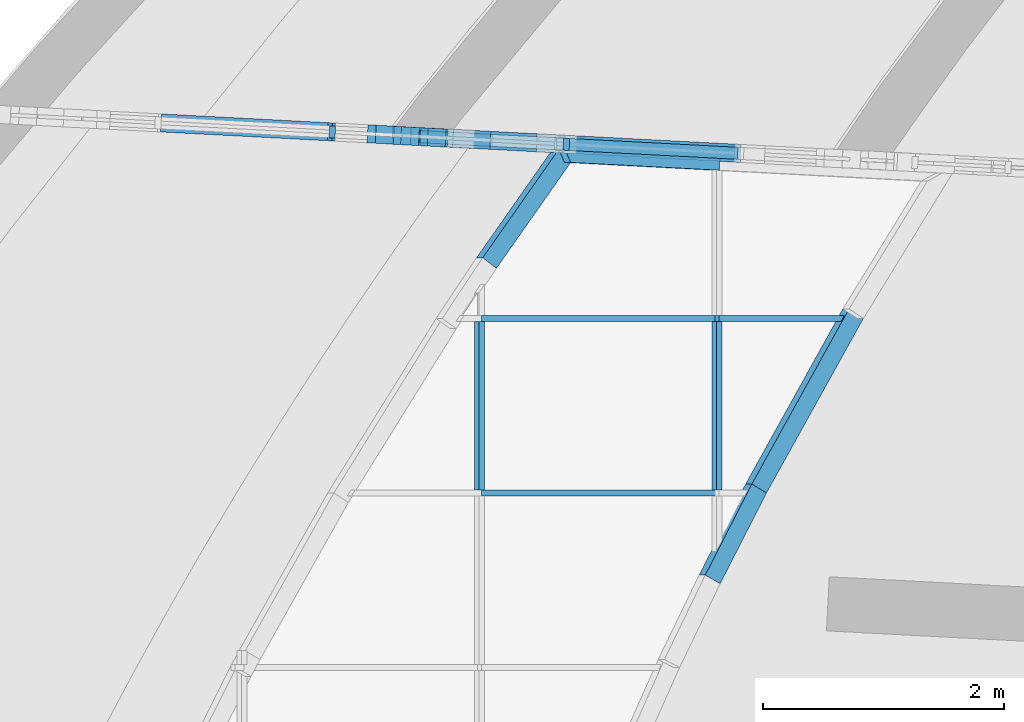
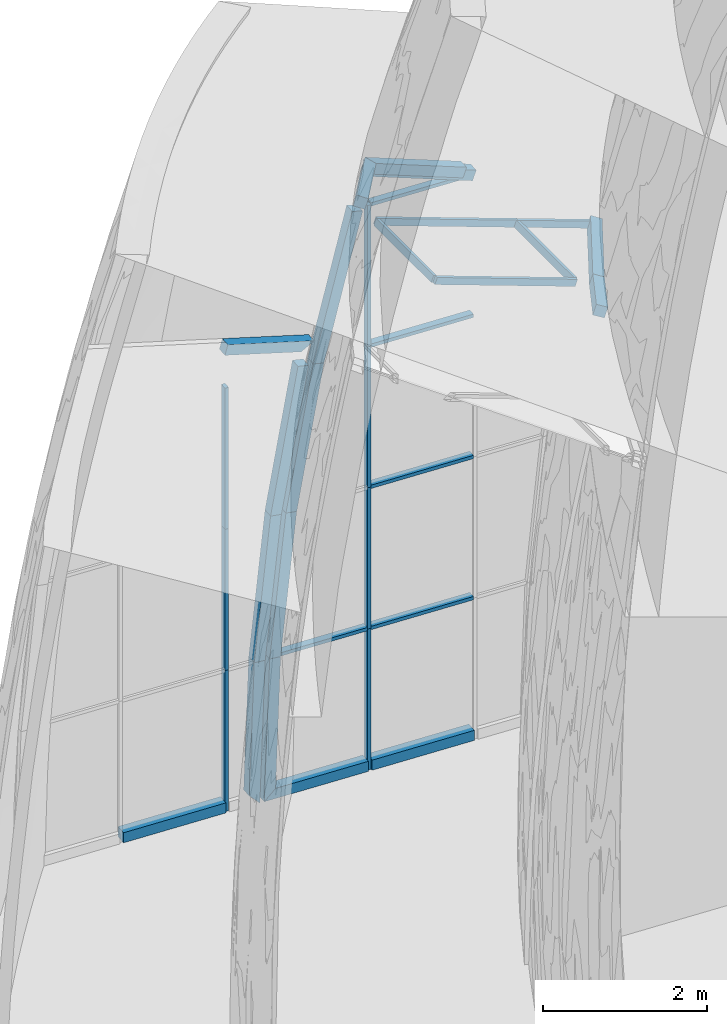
# One storey, part 17 of 82: 33 members, 2 elements without a shape of their own.
"""IFC2X3 building model written with IfcOpenShell, lengths in millimetres."""

from ifc_helpers import new_model, entity, si_unit, converted_unit, derived_unit, direction, frame, frame_2d, origin, origin_2d_with_axis, place, context, subcontext, project, spatial, polyline, rectangle, extrude, clip, halfspace, bounded_halfspace, source, transform, mapped, material, type_object, type_shapes, element, aggregate, save


model = new_model("IFC2X3")

# Units and contexts
model_context = context("Model", 3, precision=0.01, world=origin(), true_north=direction((6.12303176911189e-17, 1.0)))
body_context = subcontext(model_context, "Body", "Model", "MODEL_VIEW")
ifc_project = project(units=[si_unit("LENGTHUNIT", "METRE", prefix="MILLI"), si_unit("AREAUNIT", "SQUARE_METRE"), si_unit("VOLUMEUNIT", "CUBIC_METRE"), converted_unit("PLANEANGLEUNIT", "DEGREE", entity("IfcRatioMeasure", 0.0174532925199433), si_unit("PLANEANGLEUNIT", "RADIAN"), dimensions=[0, 0, 0, 0, 0, 0, 0]), si_unit("MASSUNIT", "GRAM", prefix="KILO"), derived_unit("MASSDENSITYUNIT", [(si_unit("MASSUNIT", "GRAM", prefix="KILO"), 1), (si_unit("LENGTHUNIT", "METRE"), -3)]), si_unit("TIMEUNIT", "SECOND"), si_unit("FREQUENCYUNIT", "HERTZ"), si_unit("THERMODYNAMICTEMPERATUREUNIT", "DEGREE_CELSIUS"), derived_unit("THERMALTRANSMITTANCEUNIT", [(si_unit("MASSUNIT", "GRAM", prefix="KILO"), 1), (si_unit("THERMODYNAMICTEMPERATUREUNIT", "KELVIN"), -1), (si_unit("TIMEUNIT", "SECOND"), -3)]), derived_unit("VOLUMETRICFLOWRATEUNIT", [(si_unit("LENGTHUNIT", "METRE"), 3), (si_unit("TIMEUNIT", "SECOND"), -1)]), si_unit("ELECTRICCURRENTUNIT", "AMPERE"), si_unit("ELECTRICVOLTAGEUNIT", "VOLT"), si_unit("POWERUNIT", "WATT"), si_unit("FORCEUNIT", "NEWTON", prefix="KILO"), si_unit("ILLUMINANCEUNIT", "LUX"), si_unit("LUMINOUSFLUXUNIT", "LUMEN"), si_unit("LUMINOUSINTENSITYUNIT", "CANDELA"), derived_unit("USERDEFINED", [(si_unit("MASSUNIT", "GRAM", prefix="KILO"), -1), (si_unit("LENGTHUNIT", "METRE"), -2), (si_unit("TIMEUNIT", "SECOND"), 3), (si_unit("LUMINOUSFLUXUNIT", "LUMEN"), 1)]), derived_unit("LINEARVELOCITYUNIT", [(si_unit("LENGTHUNIT", "METRE"), 1), (si_unit("TIMEUNIT", "SECOND"), -1)]), si_unit("PRESSUREUNIT", "PASCAL"), derived_unit("USERDEFINED", [(si_unit("LENGTHUNIT", "METRE"), -2), (si_unit("MASSUNIT", "GRAM", prefix="KILO"), 1), (si_unit("TIMEUNIT", "SECOND"), -2)])], contexts=[model_context])

# Site, building, storey
site_placement = place(None, origin())
site = spatial("IfcSite", under=ifc_project, at=site_placement, Name="表面", CompositionType="ELEMENT")
building_placement = place(site_placement, origin())
building = spatial("IfcBuilding", under=site, at=building_placement, CompositionType="ELEMENT")
storey_placement = place(building_placement, origin())
storey = spatial("IfcBuildingStorey", under=building, at=storey_placement, Name="1F", CompositionType="ELEMENT", Elevation=0.0)

# Curtain wall, members
curtain_wall_type = type_object("IfcCurtainWallType", Name="幕墙系统:1450 x 2100mm", PredefinedType="NOTDEFINED")
curtain_wall_1_placement = place(storey_placement, origin())
curtain_wall_1 = element("IfcCurtainWall", 1, at=curtain_wall_1_placement, inside=storey, type_object=curtain_wall_type, Name="幕墙系统:1450 x 2100mm", ObjectType="幕墙系统:1450 x 2100mm")
ifc_material_1 = material(Name="金属 - 铝")
member_type_1 = type_object("IfcMemberType", Name="50 x 100mm", PredefinedType="MEMBER")
shared_shape_1 = source(origin(), body_context, "Body", "SweptSolid", [
    extrude(rectangle(XDim=100.0, YDim=50.0, at=origin_2d_with_axis()), frame((0.0, 0.0, -1400.0), z_axis=(0.0, 0.0, 1.0), x_axis=(0.0, -1.0, 0.0)), (0.0, 0.0, 1.0), 1400.0),
])
type_shapes(member_type_1, [shared_shape_1])
placement_1 = place(building_placement, frame((0.0, 0.0, 6000.0)))
member_1_placement = place(placement_1, frame((-30836.5619092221, 1428.1232801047, 2543.85893198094), z_axis=(0.0, 1.0, 0.0), x_axis=(-0.93969262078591, 0.0, 0.342020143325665)))
member_1 = element("IfcMember", 2, at=member_1_placement, type_object=member_type_1, material=ifc_material_1, Name="矩形竖梃:50 x 100mm", ObjectType="50 x 100mm", context=body_context, shape_type="MappedRepresentation", body=[
    mapped(shared_shape_1, transform((0.0, 0.0, 0.0), scale=1.0)),
])
placement_2 = place(building_placement, frame((0.0, 0.0, 9000.0)))
member_2_placement = place(placement_2, frame((-32809.9164128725, 1428.1232801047, 262.101232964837), z_axis=(0.0, 1.0, 0.0), x_axis=(-0.93969262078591, 0.0, 0.342020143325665)))
member_2 = element("IfcMember", 3, at=member_2_placement, type_object=member_type_1, material=ifc_material_1, Name="矩形竖梃:50 x 100mm", ObjectType="50 x 100mm", context=body_context, shape_type="MappedRepresentation", body=[
    mapped(shared_shape_1, transform((0.0, 0.0, 0.0), scale=1.0)),
])
member_3_placement = place(storey_placement, frame((-32063.5919460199, 2898.75342961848, 2100.0), z_axis=(-0.998629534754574, 0.0523359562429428, 0.0), x_axis=(0.0, 0.0, 1.0)))
member_3 = element("IfcMember", 4, at=member_3_placement, type_object=member_type_1, material=ifc_material_1, Name="矩形竖梃:50 x 100mm", ObjectType="50 x 100mm", context=body_context, shape_type="MappedRepresentation", body=[
    mapped(shared_shape_1, transform((0.0, 0.0, 0.0), scale=1.0)),
])
placement_3 = place(building_placement, frame((0.0, 0.0, 3000.0)))
member_4_placement = place(placement_3, frame((-32063.5919460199, 2898.75342961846, 1200.0), z_axis=(-0.998629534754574, 0.0523359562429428, 0.0), x_axis=(0.0, 0.0, 1.0)))
member_4 = element("IfcMember", 5, at=member_4_placement, type_object=member_type_1, material=ifc_material_1, Name="矩形竖梃:50 x 100mm", ObjectType="50 x 100mm", context=body_context, shape_type="MappedRepresentation", body=[
    mapped(shared_shape_1, transform((0.0, 0.0, 0.0), scale=1.0)),
])
member_5_placement = place(placement_1, frame((-32063.5919460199, 2898.75342961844, 300.0), z_axis=(-0.998629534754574, 0.0523359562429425, 0.0), x_axis=(0.0, 0.0, 1.0)))
member_5 = element("IfcMember", 6, at=member_5_placement, type_object=member_type_1, material=ifc_material_1, Name="矩形竖梃:50 x 100mm", ObjectType="50 x 100mm", context=body_context, shape_type="MappedRepresentation", body=[
    mapped(shared_shape_1, transform((0.0, 0.0, 0.0), scale=1.0)),
])
member_6_placement = place(placement_1, frame((-32063.5919460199, 2898.75342961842, 2400.0), z_axis=(-0.998629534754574, 0.0523359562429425, 0.0), x_axis=(0.0, 0.0, 1.0)))
member_6 = element("IfcMember", 7, at=member_6_placement, type_object=member_type_1, material=ifc_material_1, Name="矩形竖梃:50 x 100mm", ObjectType="50 x 100mm", context=body_context, shape_type="MappedRepresentation", body=[
    mapped(shared_shape_1, transform((0.0, 0.0, 0.0), scale=1.0)),
])

# Curtain wall, member
curtain_wall_2_placement = place(storey_placement, origin())
curtain_wall_2 = element("IfcCurtainWall", 8, at=curtain_wall_2_placement, inside=storey, type_object=curtain_wall_type, Name="幕墙系统:1450 x 2100mm", ObjectType="幕墙系统:1450 x 2100mm")
member_type_2 = type_object("IfcMemberType", Name="50 x 100mm", PredefinedType="MEMBER")
shared_shape_2 = source(origin(), body_context, "Body", "SweptSolid", [
    extrude(rectangle(XDim=100.0, YDim=50.0, at=origin_2d_with_axis()), frame((0.0, 0.0, -2100.0), z_axis=(0.0, 0.0, 1.0), x_axis=(0.0, -1.0, 0.0)), (0.0, 0.0, 1.0), 2100.0),
])
type_shapes(member_type_2, [shared_shape_2])
member_7_placement = place(storey_placement, frame((-34033.894260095, 3003.05776538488, 2100.0), z_axis=(0.0, 0.0, 1.0), x_axis=(0.998629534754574, -0.0523359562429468, 0.0)))
member_7 = element("IfcMember", 9, at=member_7_placement, type_object=member_type_2, material=ifc_material_1, Name="矩形竖梃:50 x 100mm", ObjectType="50 x 100mm", context=body_context, shape_type="MappedRepresentation", body=[
    mapped(shared_shape_2, transform((0.0, 0.0, 0.0), scale=1.0)),
])

# Member
member_8_placement = place(storey_placement, frame((-32088.5576843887, 2900.06182852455, 2100.0), z_axis=(0.0, 0.0, 1.0), x_axis=(0.998629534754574, -0.0523359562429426, 0.0)))
member_8 = element("IfcMember", 10, at=member_8_placement, type_object=member_type_2, material=ifc_material_1, Name="矩形竖梃:50 x 100mm", ObjectType="50 x 100mm", context=body_context, shape_type="MappedRepresentation", body=[
    mapped(shared_shape_2, transform((0.0, 0.0, 0.0), scale=1.0)),
])

member_type_3 = type_object("IfcMemberType", Name="50 x 100mm", PredefinedType="MEMBER")
shared_shape_3 = source(origin(), body_context, "Body", "SweptSolid", [
    extrude(rectangle(XDim=100.0, YDim=50.0, at=origin_2d_with_axis()), frame((0.0, 0.0, -2100.0), z_axis=(0.0, 0.0, 1.0), x_axis=(0.0, -1.0, 0.0)), (0.0, 0.0, 1.0), 2100.0),
])
type_shapes(member_type_3, [shared_shape_3])
member_9_placement = place(storey_placement, frame((-34033.894260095, 3003.05776538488, 4200.0), z_axis=(0.0, 0.0, 1.0), x_axis=(0.998629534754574, -0.0523359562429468, 0.0)))
member_9 = element("IfcMember", 11, at=member_9_placement, type_object=member_type_3, material=ifc_material_1, Name="矩形竖梃:50 x 100mm", ObjectType="50 x 100mm", context=body_context, shape_type="MappedRepresentation", body=[
    mapped(shared_shape_3, transform((0.0, 0.0, 0.0), scale=1.0)),
])

member_10_placement = place(placement_3, frame((-34033.894260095, 3003.05776538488, 3300.0), z_axis=(0.0, 0.0, 1.0), x_axis=(0.998629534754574, -0.0523359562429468, 0.0)))
member_10 = element("IfcMember", 12, at=member_10_placement, type_object=member_type_3, material=ifc_material_1, Name="矩形竖梃:50 x 100mm", ObjectType="50 x 100mm", context=body_context, shape_type="MappedRepresentation", body=[
    mapped(shared_shape_3, transform((0.0, 0.0, 0.0), scale=1.0)),
])

member_11_placement = place(placement_1, frame((-32809.9164128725, 1453.1232801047, 3262.10123296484), z_axis=(-0.939692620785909, 0.0, 0.342020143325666), x_axis=(0.0, -1.0, 0.0)))
member_11 = element("IfcMember", 13, at=member_11_placement, type_object=member_type_3, material=ifc_material_1, Name="矩形竖梃:50 x 100mm", ObjectType="50 x 100mm", context=body_context, shape_type="MappedRepresentation", body=[
    mapped(shared_shape_3, transform((0.0, 0.0, 0.0), scale=1.0)),
])

member_12_placement = place(placement_1, frame((-32809.9164128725, 3.12328010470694, 3262.10123296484), z_axis=(-0.939692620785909, 0.0, 0.342020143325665), x_axis=(0.0, -1.0, 0.0)))
member_12 = element("IfcMember", 14, at=member_12_placement, type_object=member_type_3, material=ifc_material_1, Name="矩形竖梃:50 x 100mm", ObjectType="50 x 100mm", context=body_context, shape_type="MappedRepresentation", body=[
    mapped(shared_shape_3, transform((0.0, 0.0, 0.0), scale=1.0)),
])

member_13_placement = place(storey_placement, frame((-32088.5576843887, 2900.06182852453, 4200.0), z_axis=(0.0, 0.0, 1.0), x_axis=(0.998629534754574, -0.0523359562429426, 0.0)))
member_13 = element("IfcMember", 15, at=member_13_placement, type_object=member_type_3, material=ifc_material_1, Name="矩形竖梃:50 x 100mm", ObjectType="50 x 100mm", context=body_context, shape_type="MappedRepresentation", body=[
    mapped(shared_shape_3, transform((0.0, 0.0, 0.0), scale=1.0)),
])

member_14_placement = place(placement_3, frame((-32088.5576843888, 2900.06182852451, 3300.0), z_axis=(0.0, 0.0, 1.0), x_axis=(0.998629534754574, -0.0523359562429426, 0.0)))
member_14 = element("IfcMember", 16, at=member_14_placement, type_object=member_type_3, material=ifc_material_1, Name="矩形竖梃:50 x 100mm", ObjectType="50 x 100mm", context=body_context, shape_type="MappedRepresentation", body=[
    mapped(shared_shape_3, transform((0.0, 0.0, 0.0), scale=1.0)),
])

member_15_placement = place(placement_1, frame((-32088.5576843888, 2900.0618285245, 2400.0), z_axis=(0.0, 0.0, 1.0), x_axis=(0.998629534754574, -0.0523359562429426, 0.0)))
member_15 = element("IfcMember", 17, at=member_15_placement, type_object=member_type_3, material=ifc_material_1, Name="矩形竖梃:50 x 100mm", ObjectType="50 x 100mm", context=body_context, shape_type="MappedRepresentation", body=[
    mapped(shared_shape_3, transform((0.0, 0.0, 0.0), scale=1.0)),
])

ifc_material_2 = material(Name="木质 - 木材")
member_type_4 = type_object("IfcMemberType", Name="200 x 150mm", PredefinedType="MEMBER")
shared_shape_4 = source(origin(), body_context, "Body", "Clipping", [
    clip(clip(extrude(rectangle(XDim=150.0, YDim=150.0, at=origin_2d_with_axis()), frame((-75.0, 0.0, -2101.28937388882), z_axis=(0.0, 0.0, 1.0), x_axis=(0.0, -1.0, 0.0)), (0.0, 0.0, 1.0), 2106.55957942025), halfspace(frame((0.0, -304.8, -2101.28937388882), z_axis=(-0.694612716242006, 0.0, -0.719383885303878), x_axis=(-0.719383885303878, 0.0, 0.694612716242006)), False)), halfspace(frame((0.0, 304.8, 0.0), z_axis=(0.0351130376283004, 0.0, 0.999383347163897), x_axis=(0.999383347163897, 0.0, -0.0351130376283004)), False)),
])
type_shapes(member_type_4, [shared_shape_4])
member_16_placement = place(storey_placement, frame((-33523.0706012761, 2976.28663182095, 2100.0), z_axis=(0.0349783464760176, -0.00183313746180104, 0.999386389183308), x_axis=(0.99801676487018, -0.0523038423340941, -0.0350263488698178)))
member_16 = element("IfcMember", 18, at=member_16_placement, type_object=member_type_4, material=ifc_material_2, Name="矩形竖梃:200 x 150mm", ObjectType="200 x 150mm", context=body_context, shape_type="MappedRepresentation", body=[
    mapped(shared_shape_4, transform((0.0, 0.0, 0.0), scale=1.0)),
])

member_type_5 = type_object("IfcMemberType", Name="200 x 150mm", PredefinedType="MEMBER")
shared_shape_5 = source(origin(), body_context, "Body", "Clipping", [
    clip(clip(extrude(rectangle(XDim=150.0, YDim=150.0, at=origin_2d_with_axis()), frame((-75.0, 0.0, -2116.96093668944), z_axis=(0.0, 0.0, 1.0), x_axis=(0.0, -1.0, 0.0)), (0.0, 0.0, 1.0), 2122.27081770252), halfspace(frame((0.0, 304.8, -2111.69073115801), z_axis=(0.0351130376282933, 0.0, -0.999383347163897), x_axis=(0.999383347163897, 0.0, 0.0351130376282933)), False)), halfspace(frame((0.0, 304.8, 0.0), z_axis=(0.0353770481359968, 0.0, 0.999374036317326), x_axis=(0.999374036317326, 0.0, -0.0353770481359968)), False)),
])
type_shapes(member_type_5, [shared_shape_5])
member_17_placement = place(storey_placement, frame((-33301.4789062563, 2964.67350317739, 4200.0), z_axis=(0.104935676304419, -0.00549944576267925, 0.994463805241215), x_axis=(0.993100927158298, -0.0520462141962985, -0.105079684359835)))
member_17 = element("IfcMember", 19, at=member_17_placement, type_object=member_type_5, material=ifc_material_2, Name="矩形竖梃:200 x 150mm", ObjectType="200 x 150mm", context=body_context, shape_type="MappedRepresentation", body=[
    mapped(shared_shape_5, transform((0.0, 0.0, 0.0), scale=1.0)),
])

member_type_6 = type_object("IfcMemberType", Name="200 x 150mm", PredefinedType="MEMBER")
shared_shape_6 = source(origin(), body_context, "Body", "Clipping", [
    clip(clip(extrude(rectangle(XDim=150.0, YDim=150.0, at=origin_2d_with_axis()), frame((-75.0, 0.0, -2138.27609500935), z_axis=(0.0, 0.0, 1.0), x_axis=(0.0, -1.0, 0.0)), (0.0, 0.0, 1.0), 2141.37762299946), halfspace(frame((0.0, 304.8, -2132.96621399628), z_axis=(0.035377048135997, 0.0, -0.999374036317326), x_axis=(0.999374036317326, 0.0, 0.035377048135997)), False)), halfspace(frame((0.0, 304.8, 0.0), z_axis=(0.0206724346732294, 0.0, 0.999786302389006), x_axis=(0.999786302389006, 0.0, -0.0206724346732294)), False)),
])
type_shapes(member_type_6, [shared_shape_6])
member_18_placement = place(placement_3, frame((-32928.4338026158, 2945.12303772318, 3300.0), z_axis=(0.174894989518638, -0.009165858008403, 0.984544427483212), x_axis=(0.983195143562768, -0.0515270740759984, -0.175135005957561)))
member_18 = element("IfcMember", 20, at=member_18_placement, type_object=member_type_6, material=ifc_material_2, Name="矩形竖梃:200 x 150mm", ObjectType="200 x 150mm", context=body_context, shape_type="MappedRepresentation", body=[
    mapped(shared_shape_6, transform((0.0, 0.0, 0.0), scale=1.0)),
])

member_type_7 = type_object("IfcMemberType", Name="200 x 150mm", PredefinedType="MEMBER")
shared_shape_7 = source(origin(), body_context, "Body", "SweptSolid", [
    extrude(rectangle(XDim=150.0, YDim=150.0, at=origin_2d_with_axis()), frame((-75.0, 0.0, -1400.0), z_axis=(0.0, 0.0, 1.0), x_axis=(0.0, -1.0, 0.0)), (0.0, 0.0, 1.0), 1400.0),
])
type_shapes(member_type_7, [shared_shape_7])
member_19_placement = place(storey_placement, frame((-34058.8599984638, 3004.36616429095, 0.0), z_axis=(0.998629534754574, -0.0523359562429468, 0.0), x_axis=(0.0, 0.0, -1.0)))
member_19 = element("IfcMember", 21, at=member_19_placement, type_object=member_type_7, material=ifc_material_2, Name="矩形竖梃:200 x 150mm", ObjectType="200 x 150mm", context=body_context, shape_type="MappedRepresentation", body=[
    mapped(shared_shape_7, transform((0.0, 0.0, 0.0), scale=1.0)),
])

member_20_placement = place(storey_placement, frame((-30665.5105973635, 2825.48309087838, 0.0), z_axis=(0.998629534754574, -0.0523359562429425, 0.0), x_axis=(0.0, 0.0, -1.0)))
member_20 = element("IfcMember", 22, at=member_20_placement, type_object=member_type_7, material=ifc_material_2, Name="矩形竖梃:200 x 150mm", ObjectType="200 x 150mm", context=body_context, shape_type="MappedRepresentation", body=[
    mapped(shared_shape_7, transform((0.0, 0.0, 0.0), scale=1.0)),
])

member_type_8 = type_object("IfcMemberType", Name="200 x 150mm", PredefinedType="MEMBER")
shared_shape_8 = source(origin(), body_context, "Body", "Clipping", [
    clip(extrude(rectangle(XDim=150.0, YDim=150.0, at=frame_2d((-1.4210854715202e-14, 0.0), x_axis=(1.0, 0.0))), frame((-75.0, 0.0, -1223.42196879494), z_axis=(0.0, 0.0, 1.0), x_axis=(0.0, -1.0, 0.0)), (0.0, 0.0, 1.0), 1223.42196879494), halfspace(frame((0.0, -304.8, -1223.42196879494), z_axis=(-0.691356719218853, 0.0, -0.722513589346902), x_axis=(-0.722513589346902, 0.0, 0.691356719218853)), False)),
])
type_shapes(member_type_8, [shared_shape_8])
member_21_placement = place(placement_1, frame((-34033.894260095, 3003.05776538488, 955.181259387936), z_axis=(-0.964690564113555, 0.0505572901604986, 0.258488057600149), x_axis=(0.25813380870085, -0.0135282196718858, 0.966014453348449)))
member_21 = element("IfcMember", 23, at=member_21_placement, type_object=member_type_8, material=ifc_material_2, Name="矩形竖梃:200 x 150mm", ObjectType="200 x 150mm", context=body_context, shape_type="MappedRepresentation", body=[
    mapped(shared_shape_8, transform((0.0, 0.0, 0.0), scale=1.0)),
])

aggregate(curtain_wall_2, [member_16, member_17, member_18, member_19, member_21, member_7, member_9, member_10])

member_type_9 = type_object("IfcMemberType", Name="200 x 150mm", PredefinedType="MEMBER")
shared_shape_9 = source(origin(), body_context, "Body", "Clipping", [
    clip(clip(extrude(rectangle(XDim=150.0, YDim=150.0, at=origin_2d_with_axis()), frame((-75.0, 0.0, -1179.71419149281), z_axis=(0.0, 0.0, 1.0), x_axis=(0.0, -1.0, 0.0)), (0.0, 0.0, 1.0), 1179.71419149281), halfspace(frame((0.0, -304.800000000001, -1179.71419149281), z_axis=(-0.0123354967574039, 0.0, -0.9999239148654), x_axis=(-0.9999239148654, 0.0, 0.0123354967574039)), False)), halfspace(frame((0.0, -304.8, 0.0), z_axis=(-0.47017554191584, 0.0, 0.88257292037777), x_axis=(-0.88257292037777, 0.0, -0.47017554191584)), False)),
])
type_shapes(member_type_9, [shared_shape_9])
member_22_placement = place(placement_2, frame((-32146.9736604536, 2903.1232801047, 20.8098040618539), z_axis=(0.561952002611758, 0.801483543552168, -0.204533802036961), x_axis=(-0.753148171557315, 0.598016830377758, 0.274123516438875)))
member_22 = element("IfcMember", 24, at=member_22_placement, type_object=member_type_9, material=ifc_material_2, Name="矩形竖梃:200 x 150mm", ObjectType="200 x 150mm", context=body_context, shape_type="MappedRepresentation", body=[
    mapped(shared_shape_9, transform((0.0, 0.0, 0.0), scale=1.0)),
])

member_type_10 = type_object("IfcMemberType", Name="200 x 150mm", PredefinedType="MEMBER")
shared_shape_10 = source(origin(), body_context, "Body", "Clipping", [
    clip(clip(extrude(rectangle(XDim=150.0, YDim=150.0, at=frame_2d((0.0, 1.20792265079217e-13), x_axis=(1.0, 0.0))), frame((-75.0, 0.0, -1687.39893080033), z_axis=(0.0, 0.0, 1.0), x_axis=(0.0, -1.0, 0.0)), (0.0, 0.0, 1.0), 1690.0353725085), halfspace(frame((0.0, 304.8, -1684.06948293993), z_axis=(0.0221908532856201, 0.0, -0.999753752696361), x_axis=(0.999753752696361, 0.0, 0.0221908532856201)), False)), halfspace(frame((0.0, 304.8, 0.0), z_axis=(0.0175735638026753, 0.0, 0.999845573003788), x_axis=(0.999845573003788, 0.0, -0.0175735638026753)), False)),
])
type_shapes(member_type_10, [shared_shape_10])
member_23_placement = place(placement_1, frame((-30451.2565324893, 3.12328010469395, 2403.61924374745), z_axis=(-0.477917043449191, -0.861009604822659, 0.173947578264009), x_axis=(0.809084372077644, -0.508588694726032, -0.29448262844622)))
member_23 = element("IfcMember", 25, at=member_23_placement, type_object=member_type_10, material=ifc_material_2, Name="矩形竖梃:200 x 150mm", ObjectType="200 x 150mm", context=body_context, shape_type="MappedRepresentation", body=[
    mapped(shared_shape_10, transform((0.0, 0.0, 0.0), scale=1.0)),
])

member_type_11 = type_object("IfcMemberType", Name="200 x 150mm", PredefinedType="MEMBER")
shared_shape_11 = source(origin(), body_context, "Body", "Clipping", [
    clip(clip(extrude(rectangle(XDim=150.0, YDim=150.0, at=frame_2d((2.1316282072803e-14, -1.4210854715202e-14), x_axis=(1.0, 0.0))), frame((-75.0, 0.0, -860.416039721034), z_axis=(0.0, 0.0, 1.0), x_axis=(0.0, -1.0, 0.0)), (0.0, 0.0, 1.0), 862.118277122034), halfspace(frame((0.0, 304.799999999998, -857.779598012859), z_axis=(0.0175735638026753, 0.0, -0.999845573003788), x_axis=(0.999845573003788, 0.0, 0.0175735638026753)), False)), halfspace(frame((0.0, 304.8, 0.0), z_axis=(0.0113475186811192, 0.0, 0.999935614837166), x_axis=(0.999935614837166, 0.0, -0.0113475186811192)), False)),
])
type_shapes(member_type_11, [shared_shape_11])
member_24_placement = place(placement_1, frame((-30836.5619092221, -750.307828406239, 2543.85893198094), z_axis=(-0.449189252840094, -0.878350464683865, 0.163491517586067), x_axis=(0.825379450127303, -0.47801721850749, -0.300413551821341)))
member_24 = element("IfcMember", 26, at=member_24_placement, type_object=member_type_11, material=ifc_material_2, Name="矩形竖梃:200 x 150mm", ObjectType="200 x 150mm", context=body_context, shape_type="MappedRepresentation", body=[
    mapped(shared_shape_11, transform((0.0, 0.0, 0.0), scale=1.0)),
])

member_type_12 = type_object("IfcMemberType", Name="200 x 150mm", PredefinedType="MEMBER")
shared_shape_12 = source(origin(), body_context, "Body", "Clipping", [
    clip(extrude(rectangle(XDim=150.0, YDim=150.0, at=origin_2d_with_axis()), frame((-75.0, 0.0, -1396.2010791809), z_axis=(0.0, 0.0, 1.0), x_axis=(0.0, -1.0, 0.0)), (0.0, 0.0, 1.0), 1396.2010791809), halfspace(frame((0.0, -304.799999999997, -1396.2010791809), z_axis=(-0.47017554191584, 0.0, -0.882572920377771), x_axis=(-0.882572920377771, 0.0, 0.47017554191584)), False)),
])
type_shapes(member_type_12, [shared_shape_12])
member_25_placement = place(placement_1, frame((-30836.5619092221, 2834.44751027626, 2543.85893198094), z_axis=(0.93855517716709, -0.0491875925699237, -0.341606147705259), x_axis=(0.0462212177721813, 0.998789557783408, -0.0168231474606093)))
member_25 = element("IfcMember", 27, at=member_25_placement, type_object=member_type_12, material=ifc_material_2, Name="矩形竖梃:200 x 150mm", ObjectType="200 x 150mm", context=body_context, shape_type="MappedRepresentation", body=[
    mapped(shared_shape_12, transform((0.0, 0.0, 0.0), scale=1.0)),
])

member_type_13 = type_object("IfcMemberType", Name="50 x 100mm", PredefinedType="MEMBER")
shared_shape_13 = source(origin(), body_context, "Body", "Clipping", [
    clip(extrude(rectangle(XDim=100.0, YDim=50.0, at=origin_2d_with_axis()), frame((0.0, 0.0, -1107.08525221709), z_axis=(0.0, 0.0, 1.0), x_axis=(0.0, -1.0, 0.0)), (0.0, 0.0, 1.0), 1107.08525221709), halfspace(frame((1373.7116957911, 75.0, -280.881976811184), z_axis=(0.508588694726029, 0.0, -0.86100960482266), x_axis=(-0.86100960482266, 0.0, -0.508588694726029)), False)),
])
type_shapes(member_type_13, [shared_shape_13])
member_26_placement = place(placement_1, frame((-30836.5619092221, 1453.1232801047, 2543.85893198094), z_axis=(-0.93969262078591, 0.0, 0.342020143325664), x_axis=(0.0, -1.0, 0.0)))
member_26 = element("IfcMember", 28, at=member_26_placement, type_object=member_type_13, material=ifc_material_1, Name="矩形竖梃:50 x 100mm", ObjectType="50 x 100mm", context=body_context, shape_type="MappedRepresentation", body=[
    mapped(shared_shape_13, transform((0.0, 0.0, 0.0), scale=1.0)),
])

member_type_14 = type_object("IfcMemberType", Name="200 x 150mm", PredefinedType="MEMBER")
shared_shape_14 = source(origin(), body_context, "Body", "Clipping", [
    clip(clip(extrude(rectangle(XDim=150.0, YDim=150.0, at=frame_2d((0.0, 1.4210854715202e-14), x_axis=(1.0, 0.0))), frame((-75.0, 0.0, -2101.29457090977), z_axis=(0.0, 0.0, 1.0), x_axis=(0.0, -1.0, 0.0)), (0.0, 0.0, 1.0), 2101.29457090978), halfspace(frame((0.0, -304.8, -2101.29457090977), z_axis=(-0.0351840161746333, 0.0, -0.999380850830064), x_axis=(-0.999380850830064, 0.0, 0.0351840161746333)), False)), halfspace(frame((0.0, -304.8, 0.0), z_axis=(-0.719408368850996, 0.0, 0.694587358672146), x_axis=(-0.694587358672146, 0.0, -0.719408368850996)), False)),
])
type_shapes(member_type_14, [shared_shape_14])
member_27_placement = place(storey_placement, frame((-33536.5705097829, 2975.94896507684, 0.0), z_axis=(-0.0350487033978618, 0.00183682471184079, -0.999383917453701), x_axis=(-0.998014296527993, 0.0523037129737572, 0.0350968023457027)))
member_27 = element("IfcMember", 29, at=member_27_placement, type_object=member_type_14, material=ifc_material_2, Name="矩形竖梃:200 x 150mm", ObjectType="200 x 150mm", context=body_context, shape_type="MappedRepresentation", body=[
    mapped(shared_shape_14, transform((0.0, 0.0, 0.0), scale=1.0)),
])

member_type_15 = type_object("IfcMemberType", Name="200 x 150mm", PredefinedType="MEMBER")
shared_shape_15 = source(origin(), body_context, "Body", "Clipping", [
    clip(extrude(rectangle(XDim=150.0, YDim=150.0, at=origin_2d_with_axis()), frame((-75.0, 0.0, -1425.0), z_axis=(0.0, 0.0, 1.0), x_axis=(0.0, -1.0, 0.0)), (0.0, 0.0, 1.0), 1424.99999999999), halfspace(frame((0.0, -304.8, -1425.0), z_axis=(-0.719408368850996, 0.0, -0.694587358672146), x_axis=(-0.694587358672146, 0.0, 0.719408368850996)), False)),
])
type_shapes(member_type_15, [shared_shape_15])
member_28_placement = place(storey_placement, frame((-32113.5234227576, 2901.37022743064, 0.0), z_axis=(0.998629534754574, -0.0523359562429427, 0.0), x_axis=(0.0, 0.0, -1.0)))
member_28 = element("IfcMember", 30, at=member_28_placement, type_object=member_type_15, material=ifc_material_2, Name="矩形竖梃:200 x 150mm", ObjectType="200 x 150mm", context=body_context, shape_type="MappedRepresentation", body=[
    mapped(shared_shape_15, transform((0.0, 0.0, 0.0), scale=1.0)),
])

member_type_16 = type_object("IfcMemberType", Name="200 x 150mm", PredefinedType="MEMBER")
shared_shape_16 = source(origin(), body_context, "Body", "Clipping", [
    clip(extrude(rectangle(XDim=150.0, YDim=150.0, at=frame_2d((2.8421709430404e-14, 0.0), x_axis=(1.0, 0.0))), frame((-75.0, 0.0, -1542.81054606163), z_axis=(0.0, 0.0, 1.0), x_axis=(0.0, -1.0, 0.0)), (0.0, 0.0, 1.0), 1569.41072789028), halfspace(frame((-75.0, 0.0, -27.2603569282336), z_axis=(-0.583309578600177, 0.0, 0.812249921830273), x_axis=(0.812249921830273, 0.0, 0.583309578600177)), False)),
])
type_shapes(member_type_16, [shared_shape_16])
member_29_placement = place(placement_1, frame((-32088.5576843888, 2900.06182852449, 2999.54812756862), z_axis=(-0.93855517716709, 0.0491875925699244, 0.341606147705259), x_axis=(0.341137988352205, -0.0178782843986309, 0.939843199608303)))
member_29 = element("IfcMember", 31, at=member_29_placement, type_object=member_type_16, material=ifc_material_2, Name="矩形竖梃:200 x 150mm", ObjectType="200 x 150mm", context=body_context, shape_type="MappedRepresentation", body=[
    mapped(shared_shape_16, transform((0.0, 0.0, 0.0), scale=1.0)),
])

member_type_17 = type_object("IfcMemberType", Name="200 x 150mm", PredefinedType="MEMBER")
shared_shape_17 = source(origin(), body_context, "Body", "Clipping", [
    clip(clip(extrude(rectangle(XDim=150.0, YDim=150.0, at=origin_2d_with_axis()), frame((-75.0, 0.0, -2111.73820457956), z_axis=(0.0, 0.0, 1.0), x_axis=(0.0, -1.0, 0.0)), (0.0, 0.0, 1.0), 2111.73820457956), halfspace(frame((0.0, -304.8, -2111.73820457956), z_axis=(-0.0354496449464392, 0.0, -0.999371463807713), x_axis=(-0.999371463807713, 0.0, 0.0354496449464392)), False)), halfspace(frame((0.0, -304.8, 0.0), z_axis=(-0.0351840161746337, 0.0, 0.999380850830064), x_axis=(-0.999380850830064, 0.0, -0.0351840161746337)), False)),
])
type_shapes(member_type_17, [shared_shape_17])
member_30_placement = place(storey_placement, frame((-33462.9228596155, 2972.08925528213, 2100.0), z_axis=(-0.105146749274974, 0.00551050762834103, -0.994441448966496), x_axis=(-0.993078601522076, 0.052045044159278, 0.105291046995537)))
member_30 = element("IfcMember", 32, at=member_30_placement, type_object=member_type_17, material=ifc_material_2, Name="矩形竖梃:200 x 150mm", ObjectType="200 x 150mm", context=body_context, shape_type="MappedRepresentation", body=[
    mapped(shared_shape_17, transform((0.0, 0.0, 0.0), scale=1.0)),
])

member_type_18 = type_object("IfcMemberType", Name="200 x 150mm", PredefinedType="MEMBER")
shared_shape_18 = source(origin(), body_context, "Body", "Clipping", [
    clip(clip(extrude(rectangle(XDim=150.0, YDim=150.0, at=frame_2d((0.0, -4.9737991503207e-14), x_axis=(1.0, 0.0))), frame((-75.0, 0.0, -2133.10212614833), z_axis=(0.0, 0.0, 1.0), x_axis=(0.0, -1.0, 0.0)), (0.0, 0.0, 1.0), 2133.10212614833), halfspace(frame((0.0, -304.8, -2133.10212614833), z_axis=(-0.0359061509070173, 0.0, -0.999355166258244), x_axis=(-0.999355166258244, 0.0, 0.0359061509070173)), False)), halfspace(frame((0.0, -304.8, 0.0), z_axis=(-0.0354496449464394, 0.0, 0.999371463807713), x_axis=(-0.999371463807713, 0.0, -0.0354496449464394)), False)),
])
type_shapes(member_type_18, [shared_shape_18])
member_31_placement = place(placement_3, frame((-33240.8804520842, 2960.45250579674, 1200.0), z_axis=(-0.175246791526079, 0.00918429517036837, -0.984481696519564), x_axis=(-0.983132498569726, 0.0515237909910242, 0.175487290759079)))
member_31 = element("IfcMember", 33, at=member_31_placement, type_object=member_type_18, material=ifc_material_2, Name="矩形竖梃:200 x 150mm", ObjectType="200 x 150mm", context=body_context, shape_type="MappedRepresentation", body=[
    mapped(shared_shape_18, transform((0.0, 0.0, 0.0), scale=1.0)),
])

member_type_19 = type_object("IfcMemberType", Name="200 x 150mm", PredefinedType="MEMBER")
shared_shape_19 = source(origin(), body_context, "Body", "Clipping", [
    clip(clip(extrude(rectangle(XDim=150.0, YDim=150.0, at=origin_2d_with_axis()), frame((-75.0, 0.0, -2166.40198165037), z_axis=(0.0, 0.0, 1.0), x_axis=(0.0, -1.0, 0.0)), (0.0, 0.0, 1.0), 2166.40198165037), halfspace(frame((0.0, -304.8, -2166.40198165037), z_axis=(-0.0235130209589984, 0.0, -0.999723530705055), x_axis=(-0.999723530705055, 0.0, 0.0235130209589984)), False)), halfspace(frame((0.0, -304.8, 0.0), z_axis=(-0.0359061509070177, 0.0, 0.999355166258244), x_axis=(-0.999355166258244, 0.0, -0.0359061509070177)), False)),
])
type_shapes(member_type_19, [shared_shape_19])
member_32_placement = place(placement_1, frame((-32867.0611484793, 2940.86146624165, 300.0), z_axis=(-0.24535039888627, 0.0128582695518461, -0.969349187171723), x_axis=(-0.968020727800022, 0.0507318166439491, 0.24568710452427)))
member_32 = element("IfcMember", 34, at=member_32_placement, type_object=member_type_19, material=ifc_material_2, Name="矩形竖梃:200 x 150mm", ObjectType="200 x 150mm", context=body_context, shape_type="MappedRepresentation", body=[
    mapped(shared_shape_19, transform((0.0, 0.0, 0.0), scale=1.0)),
])

member_type_20 = type_object("IfcMemberType", Name="50 x 100mm", PredefinedType="MEMBER")
shared_shape_20 = source(origin(), body_context, "Body", "Clipping", [
    clip(clip(extrude(rectangle(XDim=100.0, YDim=50.0, at=origin_2d_with_axis()), frame((0.0, 0.0, -1351.25127977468), z_axis=(0.0, 0.0, 1.0), x_axis=(0.0, -1.0, 0.0)), (0.0, 0.0, 1.0), 1202.03677137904), bounded_halfspace(frame((-10.5421389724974, 75.0, -149.722245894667), z_axis=(0.105291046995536, 0.0, 0.994441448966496), x_axis=(0.994441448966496, 0.0, -0.105291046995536)), False, frame((0.0, 0.0, -1351.25127977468), z_axis=(0.0, 0.0, 1.0), x_axis=(0.0, -1.0, 0.0)), polyline([(-50.0, 25.0), (-50.0, -10.5421389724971), (50.0, -10.5421389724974), (50.0, 25.0), (-50.0, 25.0)]))), bounded_halfspace(frame((-2105.26452035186, 75.0, -76.1588673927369), z_axis=(0.0350968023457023, 0.0, 0.999383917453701), x_axis=(0.999383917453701, 0.0, -0.0350968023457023)), False, frame((0.0, 0.0, -1351.25127977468), z_axis=(0.0, 0.0, 1.0), x_axis=(0.0, -1.0, 0.0)), polyline([(-50.0, -10.5421389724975), (-50.0, -25.0), (50.0, -25.0), (50.0, -10.5421389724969), (-50.0, -10.5421389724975)]))),
])
type_shapes(member_type_20, [shared_shape_20])
member_33_placement = place(storey_placement, frame((-33462.9228596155, 2972.08925528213, 2100.0), z_axis=(-0.998629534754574, 0.0523359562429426, 0.0), x_axis=(0.0, 0.0, 1.0)))
member_33 = element("IfcMember", 35, at=member_33_placement, type_object=member_type_20, material=ifc_material_1, Name="矩形竖梃:50 x 100mm", ObjectType="50 x 100mm", context=body_context, shape_type="MappedRepresentation", body=[
    mapped(shared_shape_20, transform((0.0, 0.0, 0.0), scale=1.0)),
])

aggregate(curtain_wall_1, [member_22, member_23, member_24, member_25, member_1, member_2, member_26, member_11, member_12, member_27, member_28, member_20, member_29, member_30, member_31, member_32, member_33, member_3, member_4, member_5, member_6, member_8, member_13, member_14, member_15])

save(model, "model.ifc")
